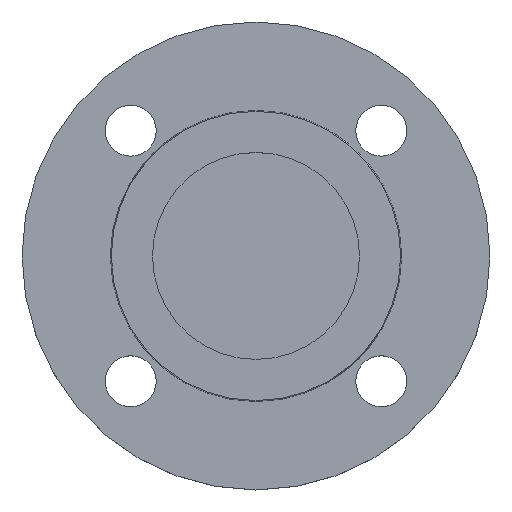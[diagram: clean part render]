
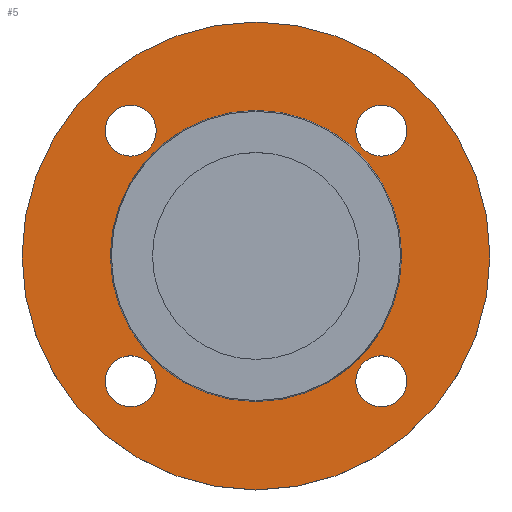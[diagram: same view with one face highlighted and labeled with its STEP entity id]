
A CAD part, top view. The second image highlights one B-rep face of the part: STEP entity #5.
In plain terms, the highlighted planar face has unit normal (0, 0, 1).
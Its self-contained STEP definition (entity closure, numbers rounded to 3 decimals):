
#5 = ADVANCED_FACE ( 'NONE', ( #772, #773, #775, #776, #777, #779 ), #780, .T. ) ;
#15 = CIRCLE ( 'NONE', #16, 82.5 ) ;
#16 = AXIS2_PLACEMENT_3D ( 'NONE', #276, #278, #291 ) ;
#39 = EDGE_CURVE ( 'NONE', #747, #562, #730, .T. ) ;
#71 = CIRCLE ( 'NONE', #85, 9. ) ;
#85 = AXIS2_PLACEMENT_3D ( 'NONE', #426, #427, #435 ) ;
#94 = DIRECTION ( 'NONE',  ( 1., 0., 0. ) ) ;
#95 = DIRECTION ( 'NONE',  ( 0., 0., -1. ) ) ;
#96 = CARTESIAN_POINT ( 'NONE',  ( -44.194, 44.194, -2. ) ) ;
#110 = DIRECTION ( 'NONE',  ( 0., 0., -1. ) ) ;
#119 = CARTESIAN_POINT ( 'NONE',  ( 53.194, 44.194, -2. ) ) ;
#130 = CARTESIAN_POINT ( 'NONE',  ( -35.194, 44.194, -2. ) ) ;
#140 = CARTESIAN_POINT ( 'NONE',  ( -35.194, -44.194, -2. ) ) ;
#144 = CARTESIAN_POINT ( 'NONE',  ( 82.5, 0., -2. ) ) ;
#151 = CIRCLE ( 'NONE', #152, 9. ) ;
#152 = AXIS2_PLACEMENT_3D ( 'NONE', #625, #630, #634 ) ;
#172 = DIRECTION ( 'NONE',  ( -1., 0., 0. ) ) ;
#173 = DIRECTION ( 'NONE',  ( 0., 0., -1. ) ) ;
#177 = EDGE_CURVE ( 'NONE', #492, #724, #15, .T. ) ;
#180 = CARTESIAN_POINT ( 'NONE',  ( 0., 0., -2. ) ) ;
#190 = CARTESIAN_POINT ( 'NONE',  ( -51.353, 0., -2. ) ) ;
#205 = DIRECTION ( 'NONE',  ( 1., 0., 0. ) ) ;
#206 = DIRECTION ( 'NONE',  ( 0., 0., -1. ) ) ;
#214 = CARTESIAN_POINT ( 'NONE',  ( -44.194, 44.194, -2. ) ) ;
#231 = CIRCLE ( 'NONE', #233, 9. ) ;
#233 = AXIS2_PLACEMENT_3D ( 'NONE', #716, #807, #709 ) ;
#255 = CARTESIAN_POINT ( 'NONE',  ( 35.194, 44.194, -2. ) ) ;
#260 = CARTESIAN_POINT ( 'NONE',  ( 51.353, 0., -2. ) ) ;
#262 = CARTESIAN_POINT ( 'NONE',  ( -53.194, 44.194, -2. ) ) ;
#264 = CARTESIAN_POINT ( 'NONE',  ( -53.194, -44.194, -2. ) ) ;
#273 = DIRECTION ( 'NONE',  ( -1., 0., 0. ) ) ;
#274 = DIRECTION ( 'NONE',  ( 0., 0., -1. ) ) ;
#275 = CARTESIAN_POINT ( 'NONE',  ( 0., 0., -2. ) ) ;
#276 = CARTESIAN_POINT ( 'NONE',  ( 0., 0., -2. ) ) ;
#278 = DIRECTION ( 'NONE',  ( 0., 0., -1. ) ) ;
#283 = CIRCLE ( 'NONE', #285, 51.353 ) ;
#285 = AXIS2_PLACEMENT_3D ( 'NONE', #326, #322, #342 ) ;
#286 = CARTESIAN_POINT ( 'NONE',  ( 53.194, -44.194, -2. ) ) ;
#291 = DIRECTION ( 'NONE',  ( -1., 0., 0. ) ) ;
#293 = CARTESIAN_POINT ( 'NONE',  ( -82.5, 0., -2. ) ) ;
#305 = DIRECTION ( 'NONE',  ( 0., 0., -1. ) ) ;
#310 = EDGE_CURVE ( 'NONE', #497, #515, #71, .T. ) ;
#322 = DIRECTION ( 'NONE',  ( 0., 0., -1. ) ) ;
#326 = CARTESIAN_POINT ( 'NONE',  ( 0., 0., -2. ) ) ;
#342 = DIRECTION ( 'NONE',  ( -1., 0., 0. ) ) ;
#358 = CARTESIAN_POINT ( 'NONE',  ( 35.194, -44.194, -2. ) ) ;
#360 = CARTESIAN_POINT ( 'NONE',  ( -44.194, -44.194, -2. ) ) ;
#374 = EDGE_CURVE ( 'NONE', #562, #747, #151, .T. ) ;
#383 = CIRCLE ( 'NONE', #384, 9. ) ;
#384 = AXIS2_PLACEMENT_3D ( 'NONE', #428, #305, #822 ) ;
#388 = AXIS2_PLACEMENT_3D ( 'NONE', #806, #816, #817 ) ;
#401 = CIRCLE ( 'NONE', #414, 9. ) ;
#403 = EDGE_CURVE ( 'NONE', #542, #733, #231, .T. ) ;
#414 = AXIS2_PLACEMENT_3D ( 'NONE', #360, #110, #563 ) ;
#423 = CIRCLE ( 'NONE', #424, 82.5 ) ;
#424 = AXIS2_PLACEMENT_3D ( 'NONE', #275, #274, #273 ) ;
#426 = CARTESIAN_POINT ( 'NONE',  ( 44.194, -44.194, -2. ) ) ;
#427 = DIRECTION ( 'NONE',  ( 0., 0., -1. ) ) ;
#428 = CARTESIAN_POINT ( 'NONE',  ( 44.194, -44.194, -2. ) ) ;
#430 = EDGE_CURVE ( 'NONE', #546, #650, #283, .T. ) ;
#435 = DIRECTION ( 'NONE',  ( 1., 0., 0. ) ) ;
#472 = CIRCLE ( 'NONE', #799, 9. ) ;
#478 = EDGE_CURVE ( 'NONE', #515, #497, #383, .T. ) ;
#487 = CIRCLE ( 'NONE', #489, 51.353 ) ;
#489 = AXIS2_PLACEMENT_3D ( 'NONE', #180, #173, #172 ) ;
#491 = EDGE_LOOP ( 'NONE', ( #632, #636 ) ) ;
#492 = VERTEX_POINT ( 'NONE', #293 ) ;
#497 = VERTEX_POINT ( 'NONE', #286 ) ;
#514 = EDGE_LOOP ( 'NONE', ( #637, #638 ) ) ;
#515 = VERTEX_POINT ( 'NONE', #358 ) ;
#518 = ORIENTED_EDGE ( 'NONE', *, *, #642, .T. ) ;
#521 = EDGE_CURVE ( 'NONE', #733, #542, #401, .T. ) ;
#525 = EDGE_LOOP ( 'NONE', ( #627, #628 ) ) ;
#527 = EDGE_CURVE ( 'NONE', #724, #492, #423, .T. ) ;
#530 = VERTEX_POINT ( 'NONE', #130 ) ;
#542 = VERTEX_POINT ( 'NONE', #264 ) ;
#544 = VERTEX_POINT ( 'NONE', #262 ) ;
#546 = VERTEX_POINT ( 'NONE', #260 ) ;
#551 = EDGE_LOOP ( 'NONE', ( #640, #643 ) ) ;
#554 = CIRCLE ( 'NONE', #557, 9. ) ;
#557 = AXIS2_PLACEMENT_3D ( 'NONE', #96, #95, #94 ) ;
#562 = VERTEX_POINT ( 'NONE', #255 ) ;
#563 = DIRECTION ( 'NONE',  ( 1., 0., 0. ) ) ;
#606 = AXIS2_PLACEMENT_3D ( 'NONE', #781, #782, #783 ) ;
#625 = CARTESIAN_POINT ( 'NONE',  ( 44.194, 44.194, -2. ) ) ;
#627 = ORIENTED_EDGE ( 'NONE', *, *, #310, .T. ) ;
#628 = ORIENTED_EDGE ( 'NONE', *, *, #478, .T. ) ;
#629 = ORIENTED_EDGE ( 'NONE', *, *, #521, .T. ) ;
#630 = DIRECTION ( 'NONE',  ( 0., 0., -1. ) ) ;
#631 = ORIENTED_EDGE ( 'NONE', *, *, #403, .T. ) ;
#632 = ORIENTED_EDGE ( 'NONE', *, *, #39, .T. ) ;
#634 = DIRECTION ( 'NONE',  ( 1., 0., 0. ) ) ;
#636 = ORIENTED_EDGE ( 'NONE', *, *, #374, .T. ) ;
#637 = ORIENTED_EDGE ( 'NONE', *, *, #665, .T. ) ;
#638 = ORIENTED_EDGE ( 'NONE', *, *, #430, .T. ) ;
#640 = ORIENTED_EDGE ( 'NONE', *, *, #527, .F. ) ;
#642 = EDGE_CURVE ( 'NONE', #530, #544, #472, .T. ) ;
#643 = ORIENTED_EDGE ( 'NONE', *, *, #177, .F. ) ;
#650 = VERTEX_POINT ( 'NONE', #190 ) ;
#665 = EDGE_CURVE ( 'NONE', #650, #546, #487, .T. ) ;
#703 = EDGE_LOOP ( 'NONE', ( #518, #770 ) ) ;
#709 = DIRECTION ( 'NONE',  ( 1., 0., 0. ) ) ;
#716 = CARTESIAN_POINT ( 'NONE',  ( -44.194, -44.194, -2. ) ) ;
#724 = VERTEX_POINT ( 'NONE', #144 ) ;
#730 = CIRCLE ( 'NONE', #388, 9. ) ;
#733 = VERTEX_POINT ( 'NONE', #140 ) ;
#747 = VERTEX_POINT ( 'NONE', #119 ) ;
#768 = EDGE_LOOP ( 'NONE', ( #629, #631 ) ) ;
#770 = ORIENTED_EDGE ( 'NONE', *, *, #790, .T. ) ;
#772 = FACE_BOUND ( 'NONE', #525, .T. ) ;
#773 = FACE_BOUND ( 'NONE', #768, .T. ) ;
#775 = FACE_BOUND ( 'NONE', #703, .T. ) ;
#776 = FACE_BOUND ( 'NONE', #491, .T. ) ;
#777 = FACE_BOUND ( 'NONE', #514, .T. ) ;
#779 = FACE_OUTER_BOUND ( 'NONE', #551, .T. ) ;
#780 = PLANE ( 'NONE',  #606 ) ;
#781 = CARTESIAN_POINT ( 'NONE',  ( 51.353, 0., -2. ) ) ;
#782 = DIRECTION ( 'NONE',  ( 0., 0., 1. ) ) ;
#783 = DIRECTION ( 'NONE',  ( 1., 0., 0. ) ) ;
#790 = EDGE_CURVE ( 'NONE', #544, #530, #554, .T. ) ;
#799 = AXIS2_PLACEMENT_3D ( 'NONE', #214, #206, #205 ) ;
#806 = CARTESIAN_POINT ( 'NONE',  ( 44.194, 44.194, -2. ) ) ;
#807 = DIRECTION ( 'NONE',  ( 0., 0., -1. ) ) ;
#816 = DIRECTION ( 'NONE',  ( 0., 0., -1. ) ) ;
#817 = DIRECTION ( 'NONE',  ( 1., 0., 0. ) ) ;
#822 = DIRECTION ( 'NONE',  ( 1., 0., 0. ) ) ;
